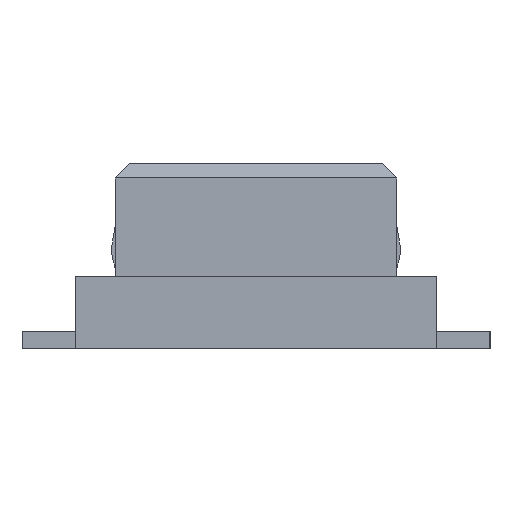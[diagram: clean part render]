
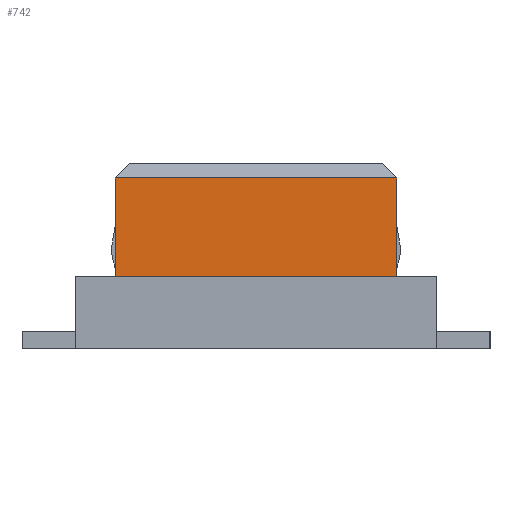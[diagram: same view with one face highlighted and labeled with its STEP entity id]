
A CAD part, left-side view. The second image highlights one B-rep face of the part: STEP entity #742.
In plain terms, the highlighted planar face has unit normal (-1, 0, 0).
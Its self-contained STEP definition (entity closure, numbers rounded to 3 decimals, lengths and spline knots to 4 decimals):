
#365=CARTESIAN_POINT('Line Origine',(-6.95,0.7625,0.5)) ;
#369=CARTESIAN_POINT('Vertex',(-6.95,0.975,0.5)) ;
#371=CARTESIAN_POINT('Vertex',(-6.95,0.55,0.5)) ;
#383=CARTESIAN_POINT('Vertex',(-6.95,-0.975,0.5)) ;
#386=CARTESIAN_POINT('Line Origine',(-6.95,-0.7625,0.5)) ;
#390=CARTESIAN_POINT('Vertex',(-6.95,-0.55,0.5)) ;
#512=CARTESIAN_POINT('Vertex',(-6.95,0.55,0.)) ;
#515=CARTESIAN_POINT('Line Origine',(-6.95,0.55,0.25)) ;
#533=CARTESIAN_POINT('Line Origine',(-6.95,-0.55,0.25)) ;
#537=CARTESIAN_POINT('Vertex',(-6.95,-0.55,0.)) ;
#703=CARTESIAN_POINT('Axis2P3D Location',(-6.95,1.25,0.5)) ;
#708=CARTESIAN_POINT('Line Origine',(-6.95,0.,1.18)) ;
#712=CARTESIAN_POINT('Vertex',(-6.95,0.975,1.18)) ;
#714=CARTESIAN_POINT('Vertex',(-6.95,-0.975,1.18)) ;
#717=CARTESIAN_POINT('Line Origine',(-6.95,0.975,0.84)) ;
#722=CARTESIAN_POINT('Line Origine',(-6.95,0.,0.)) ;
#727=CARTESIAN_POINT('Line Origine',(-6.95,-0.975,0.84)) ;
#366=DIRECTION('Vector Direction',(0.,-1.,0.)) ;
#387=DIRECTION('Vector Direction',(0.,-1.,0.)) ;
#516=DIRECTION('Vector Direction',(0.,0.,-1.)) ;
#534=DIRECTION('Vector Direction',(0.,0.,-1.)) ;
#704=DIRECTION('Axis2P3D Direction',(1.,0.,-0.)) ;
#705=DIRECTION('Axis2P3D XDirection',(0.,0.,1.)) ;
#709=DIRECTION('Vector Direction',(0.,1.,0.)) ;
#718=DIRECTION('Vector Direction',(0.,0.,1.)) ;
#723=DIRECTION('Vector Direction',(0.,-1.,0.)) ;
#728=DIRECTION('Vector Direction',(0.,0.,1.)) ;
#706=AXIS2_PLACEMENT_3D('Plane Axis2P3D',#703,#704,#705) ;
#733=ORIENTED_EDGE('',*,*,#716,.F.) ;
#734=ORIENTED_EDGE('',*,*,#721,.F.) ;
#735=ORIENTED_EDGE('',*,*,#373,.T.) ;
#736=ORIENTED_EDGE('',*,*,#519,.T.) ;
#737=ORIENTED_EDGE('',*,*,#726,.T.) ;
#738=ORIENTED_EDGE('',*,*,#539,.F.) ;
#739=ORIENTED_EDGE('',*,*,#392,.T.) ;
#740=ORIENTED_EDGE('',*,*,#731,.T.) ;
#367=VECTOR('Line Direction',#366,1.) ;
#388=VECTOR('Line Direction',#387,1.) ;
#517=VECTOR('Line Direction',#516,1.) ;
#535=VECTOR('Line Direction',#534,1.) ;
#710=VECTOR('Line Direction',#709,1.) ;
#719=VECTOR('Line Direction',#718,1.) ;
#724=VECTOR('Line Direction',#723,1.) ;
#729=VECTOR('Line Direction',#728,1.) ;
#742=ADVANCED_FACE('\X2\96F64EF651E04F554F53\X0\',(#741),#707,.F.) ;
#373=EDGE_CURVE('',#370,#372,#368,.T.) ;
#392=EDGE_CURVE('',#391,#384,#389,.T.) ;
#519=EDGE_CURVE('',#372,#513,#518,.T.) ;
#539=EDGE_CURVE('',#391,#538,#536,.T.) ;
#716=EDGE_CURVE('',#713,#715,#711,.F.) ;
#721=EDGE_CURVE('',#370,#713,#720,.T.) ;
#726=EDGE_CURVE('',#513,#538,#725,.T.) ;
#731=EDGE_CURVE('',#384,#715,#730,.T.) ;
#732=EDGE_LOOP('',(#733,#734,#735,#736,#737,#738,#739,#740)) ;
#741=FACE_OUTER_BOUND('',#732,.T.) ;
#368=LINE('Line',#365,#367) ;
#389=LINE('Line',#386,#388) ;
#518=LINE('Line',#515,#517) ;
#536=LINE('Line',#533,#535) ;
#711=LINE('Line',#708,#710) ;
#720=LINE('Line',#717,#719) ;
#725=LINE('Line',#722,#724) ;
#730=LINE('Line',#727,#729) ;
#707=PLANE('Plane',#706) ;
#370=VERTEX_POINT('',#369) ;
#372=VERTEX_POINT('',#371) ;
#384=VERTEX_POINT('',#383) ;
#391=VERTEX_POINT('',#390) ;
#513=VERTEX_POINT('',#512) ;
#538=VERTEX_POINT('',#537) ;
#713=VERTEX_POINT('',#712) ;
#715=VERTEX_POINT('',#714) ;
